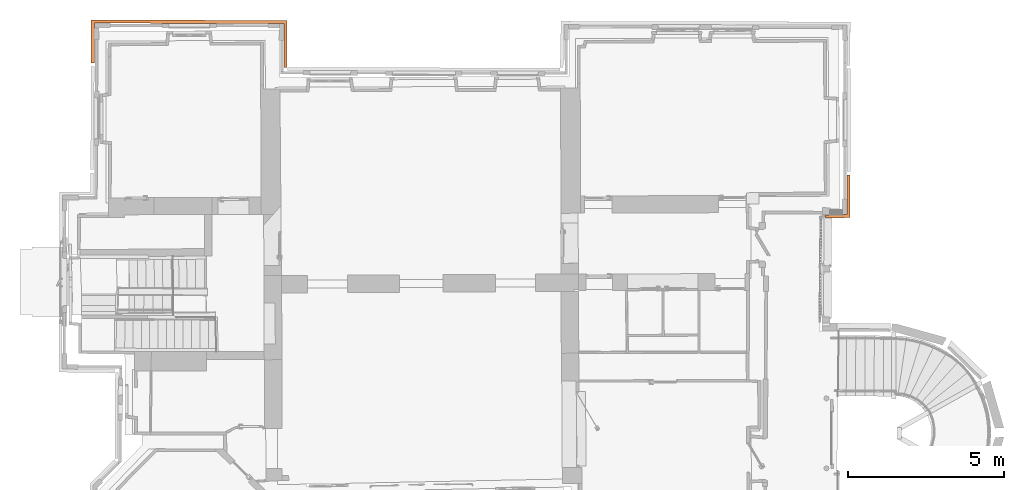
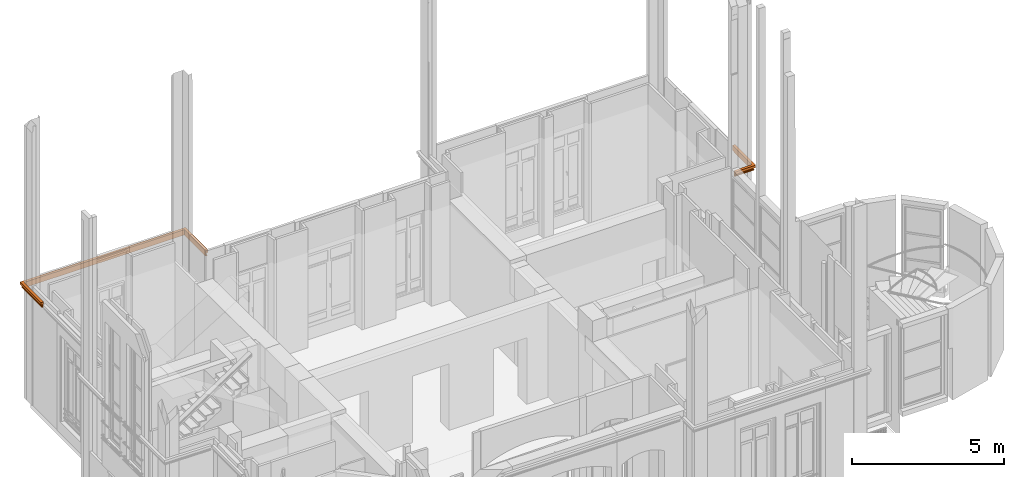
# One storey, part 96 of 97: 2 proxies.
"""IFC2X3 building model written with IfcOpenShell, lengths in centimetres."""

from ifc_helpers import new_model, entity, si_unit, converted_unit, direction, origin, origin_with_axes, place, context, subcontext, project, spatial, faceted_brep, material, type_object, element, save


model = new_model("IFC2X3")

# Units and contexts
model_context = context("Model", 3, precision=0.0001, world=origin(), true_north=direction((0.225632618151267, 0.974212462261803, 0.0)))
body_context = subcontext(model_context, "Body", "Model", "MODEL_VIEW")
ifc_project = project(units=[si_unit("LENGTHUNIT", "METRE", prefix="CENTI"), si_unit("AREAUNIT", "SQUARE_METRE", prefix="CENTI"), si_unit("VOLUMEUNIT", "CUBIC_METRE", prefix="CENTI"), converted_unit("PLANEANGLEUNIT", "DEGREE", entity("IfcRatioMeasure", 0.0174532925), si_unit("PLANEANGLEUNIT", "RADIAN"), dimensions=[0, 0, 0, 0, 0, 0, 0])], contexts=[model_context])

# Site, building, storey
site_placement = place(None, origin_with_axes())
site = spatial("IfcSite", under=ifc_project, at=site_placement, Name="Default Site", CompositionType="ELEMENT")
building_placement = place(site_placement, origin_with_axes())
building = spatial("IfcBuilding", under=site, at=building_placement, Name="Default Building", CompositionType="ELEMENT")
storey_placement = place(building_placement, origin_with_axes())
storey = spatial("IfcBuildingStorey", under=building, at=storey_placement, Name="Rez-de-chaussée", CompositionType="ELEMENT", Elevation=0.0)

# Proxies
ifc_material = material(Name="Aluminium mat")
building_element_proxy_type = type_object("IfcBuildingElementProxyType", Name="Corniche niv1", PredefinedType="NOTDEFINED", material=ifc_material)
proxy_1_placement = place(storey_placement, origin_with_axes())
element("IfcBuildingElementProxy", 1, at=proxy_1_placement, inside=storey, type_object=building_element_proxy_type, material=ifc_material, Name="Extrusion (solide) 956349", context=body_context, shape_type="Brep", body=[
    faceted_brep([(1149.84350204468, 151.600062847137, 464.400005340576), (1159.74788665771, 141.722285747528, 464.400005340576), (1160.88590621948, 278.533816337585, 464.400005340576), (1150.89998245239, 278.616881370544, 464.400005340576), (1159.74788665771, 141.722285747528, 454.400014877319), (1160.88584678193, 278.53381683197, 454.400014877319), (1160.88584678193, 278.53381683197, 464.400005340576), (1152.81896591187, 148.632633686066, 454.400014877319), (1153.89986038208, 278.591918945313, 454.400014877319), (1160.88590621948, 278.533816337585, 454.400014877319), (1152.81896591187, 148.632633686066, 447.100019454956), (1153.89993096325, 278.591918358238, 447.100019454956), (1153.89993096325, 278.591918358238, 454.400014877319), (1155.26714324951, 146.190965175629, 447.100019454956), (1156.36825561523, 278.571391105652, 447.100019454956), (1153.89986038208, 278.591918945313, 447.100019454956), (1155.62075757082, 145.838356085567, 446.875559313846), (1156.72474179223, 278.568410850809, 446.875576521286), (1156.36825308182, 278.571391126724, 447.100015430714), (1155.62076568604, 145.838356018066, 446.87557220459), (1155.92776346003, 145.532166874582, 446.589909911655), (1157.03430654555, 278.565835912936, 446.589904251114), (1156.72475663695, 278.568410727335, 446.875591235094), (1155.92775344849, 145.532166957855, 446.58989906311), (1156.1779269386, 145.282661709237, 446.252555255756), (1157.28654027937, 278.563737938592, 446.252530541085), (1157.03429450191, 278.565836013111, 446.589893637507), (1156.17790222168, 145.282661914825, 446.252536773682), (1156.36286245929, 145.098209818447, 445.874808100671), (1157.47297094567, 278.562188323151, 445.874823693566), (1157.2865071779, 278.563738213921, 446.252516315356), (1156.36291503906, 145.098209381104, 445.874834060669), (1156.47641826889, 144.985008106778, 445.469479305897), (1157.58746667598, 278.561234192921, 445.469484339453), (1157.47302832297, 278.562187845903, 445.874844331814), (1156.47640228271, 144.985008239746, 445.46947479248), (1156.51466847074, 144.946837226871, 445.050003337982), (1157.62603363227, 278.56092472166, 445.049999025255), (1157.58745196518, 278.561234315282, 445.469476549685), (1156.5146446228, 144.946837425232, 445.050001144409), (1156.47637843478, 144.985008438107, 444.630529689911), (1157.58742811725, 278.561234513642, 444.630527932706), (1157.62600978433, 278.560924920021, 445.050005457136), (1156.47640228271, 144.985008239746, 444.630527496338), (1156.36289905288, 145.098209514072, 444.225172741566), (1157.47301233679, 278.562187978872, 444.225162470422), (1157.5874506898, 278.56123432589, 444.630522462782), (1156.36291503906, 145.098209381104, 444.225168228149), (1156.17795480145, 145.282661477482, 443.847439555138), (1157.28655975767, 278.563737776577, 443.847460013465), (1157.47302352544, 278.562187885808, 444.225152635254), (1156.17790222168, 145.282661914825, 443.847465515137), (1155.92772873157, 145.532167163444, 443.510121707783), (1157.03426978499, 278.5658362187, 443.510127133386), (1157.28651556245, 278.56373814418, 443.847490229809), (1155.92775344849, 145.532166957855, 443.510103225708), (1155.62075567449, 145.83835610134, 443.224440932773), (1156.7247466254, 278.568410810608, 443.224421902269), (1157.034296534, 278.565835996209, 443.510108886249), (1155.62076568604, 145.838356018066, 443.224430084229), (1155.26715136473, 146.190965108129, 442.999969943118), (1156.36826119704, 278.571391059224, 442.999973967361), (1156.72474990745, 278.568410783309, 443.224412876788), (1155.26714324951, 146.190965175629, 442.999982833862), (1149.84350204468, 151.600062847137, 442.999982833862), (1150.89998245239, 278.616881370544, 442.999982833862), (1156.36825561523, 278.571391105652, 442.999982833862), (1150.89999248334, 278.61688128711, 464.400005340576), (1150.89999248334, 278.61688128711, 442.999982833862), (1081.91051483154, 150.852155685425, 464.400005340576), (1082.02047348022, 140.866541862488, 464.400005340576), (1082.02047348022, 140.866541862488, 454.400014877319), (1159.74788673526, 141.722278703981, 454.400014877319), (1159.74788673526, 141.722278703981, 464.400005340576), (1081.94351196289, 147.852337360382, 454.400014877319), (1081.94351196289, 147.852337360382, 447.100019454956), (1152.81896586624, 148.632637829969, 447.100019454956), (1152.81896586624, 148.632637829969, 454.400014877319), (1081.97069168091, 145.384001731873, 447.100019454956), (1081.97460188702, 145.027541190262, 446.875592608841), (1155.62076581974, 145.838343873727, 446.875591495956), (1155.26714327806, 146.190962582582, 447.100023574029), (1081.97460174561, 145.027554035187, 446.87557220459), (1081.97803497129, 144.718027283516, 446.589898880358), (1155.92775341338, 145.532170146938, 446.589895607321), (1155.6207656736, 145.838357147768, 446.87557098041), (1081.97803497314, 144.718027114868, 446.58989906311), (1081.98080065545, 144.465789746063, 446.252538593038), (1156.17790224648, 145.28265966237, 446.252538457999), (1155.92775340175, 145.532171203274, 446.589895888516), (1081.98080062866, 144.465792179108, 446.252536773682), (1081.9828986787, 144.279328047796, 445.874832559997), (1156.36291501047, 145.098211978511, 445.874832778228), (1156.17790221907, 145.282662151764, 446.252536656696), (1081.98289871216, 144.279325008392, 445.874834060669), (1081.9841384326, 144.16488919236, 445.469473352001), (1156.47640227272, 144.985009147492, 445.469474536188), (1156.36291504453, 145.098208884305, 445.874834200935), (1081.98413848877, 144.164884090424, 445.46947479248), (1081.9845200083, 144.126303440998, 445.050001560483), (1156.51464459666, 144.946839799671, 445.050000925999), (1156.47640233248, 144.985003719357, 445.469475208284), (1081.9845199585, 144.126307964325, 445.050001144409), (1081.98413843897, 144.164888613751, 444.630527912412), (1156.47640228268, 144.985008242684, 444.630527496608), (1156.51464454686, 144.946844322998, 445.050001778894), (1081.98413848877, 144.164884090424, 444.630527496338), (1081.98289876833, 144.279319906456, 444.22516678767), (1156.3629151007, 145.098203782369, 444.225166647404), (1156.47640232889, 144.985004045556, 444.630526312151), (1081.98289871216, 144.279325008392, 444.225168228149), (1081.98080066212, 144.465789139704, 443.847464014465), (1156.17790225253, 145.28265911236, 443.847464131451), (1156.36291504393, 145.098208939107, 444.225168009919), (1081.98080062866, 144.465792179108, 443.847465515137), (1081.97803494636, 144.718029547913, 443.510105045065), (1155.92775337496, 145.532173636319, 443.510108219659), (1156.17790221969, 145.282662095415, 443.847465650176), (1081.97803497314, 144.718027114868, 443.510103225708), (1081.97460174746, 145.027553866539, 443.224429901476), (1155.62076567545, 145.83835697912, 443.224431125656), (1155.92775341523, 145.53216997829, 443.510106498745), (1081.97460174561, 145.027554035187, 443.224430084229), (1081.97069153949, 145.384014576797, 443.000003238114), (1155.26714313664, 146.190975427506, 442.99999911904), (1155.62076567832, 145.838356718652, 443.224431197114), (1081.97069168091, 145.384001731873, 442.999982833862), (1081.91051483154, 150.852155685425, 442.999982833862), (1149.84350206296, 151.600061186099, 464.400005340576), (1149.84350206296, 151.600061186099, 442.999982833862), (1160.88590626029, 278.533821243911, 464.400005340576), (1160.88590626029, 278.533821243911, 454.400014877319), (1153.89986046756, 278.591929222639, 454.400014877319), (1153.89986046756, 278.591929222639, 447.100019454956), (1156.36825567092, 278.571397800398, 447.100019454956), (1156.724739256, 278.56843266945, 446.87557220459), (1157.03430193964, 278.565857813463, 446.58989906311), (1157.28654879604, 278.563759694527, 446.252536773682), (1157.47299211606, 278.562208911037, 445.874834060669), (1157.58743304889, 278.561257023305, 445.46947479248), (1157.62605676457, 278.560935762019, 445.050001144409), (1157.58743304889, 278.561257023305, 444.630527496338), (1157.47299211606, 278.562208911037, 444.225168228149), (1157.28654879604, 278.563759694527, 443.847465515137), (1157.03430193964, 278.565857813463, 443.510103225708), (1156.724739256, 278.56843266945, 443.224430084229), (1156.36825567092, 278.571397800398, 442.999982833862), (1081.97071625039, 145.384002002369, 442.999982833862), (1081.9746405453, 145.02755446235, 443.224430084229), (1081.97804827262, 144.718027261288, 443.510103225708), (1081.98082524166, 144.465792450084, 443.847465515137), (1081.98287814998, 144.279324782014, 444.225168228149), (1081.98413808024, 144.164884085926, 444.630527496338), (1081.98456277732, 144.126308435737, 445.050001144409), (1081.98413808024, 144.164884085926, 445.46947479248), (1081.98287814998, 144.279324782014, 445.874834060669), (1081.98082524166, 144.465792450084, 446.252536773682), (1081.97804827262, 144.718027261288, 446.58989906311), (1081.9746405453, 145.02755446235, 446.87557220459), (1081.97071625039, 145.384002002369, 447.100019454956), (1081.94354120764, 147.852337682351, 447.100019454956), (1081.94354120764, 147.852337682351, 454.400014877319), (1082.0204510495, 140.866541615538, 454.400014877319), (1082.0204510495, 140.866541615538, 464.400005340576)], [[[0, 1, 2, 3]], [[1, 4, 5, 6]], [[4, 7, 8, 9]], [[7, 10, 11, 12]], [[10, 13, 14, 15]], [[13, 16, 17, 18]], [[19, 20, 21, 22]], [[23, 24, 25, 26]], [[27, 28, 29, 30]], [[31, 32, 33, 34]], [[35, 36, 37, 38]], [[39, 40, 41, 42]], [[43, 44, 45, 46]], [[47, 48, 49, 50]], [[51, 52, 53, 54]], [[55, 56, 57, 58]], [[59, 60, 61, 62]], [[63, 64, 65, 66]], [[64, 0, 67, 68]], [[69, 70, 1, 0]], [[70, 71, 72, 73]], [[71, 74, 7, 4]], [[74, 75, 76, 77]], [[75, 78, 13, 10]], [[78, 79, 80, 81]], [[82, 83, 84, 85]], [[86, 87, 88, 89]], [[90, 91, 92, 93]], [[94, 95, 96, 97]], [[98, 99, 100, 101]], [[102, 103, 104, 105]], [[106, 107, 108, 109]], [[110, 111, 112, 113]], [[114, 115, 116, 117]], [[118, 119, 120, 121]], [[122, 123, 124, 125]], [[126, 127, 64, 63]], [[127, 69, 128, 129]], [[3, 130, 131, 132, 133, 134, 135, 136, 137, 138, 139, 140, 141, 142, 143, 144, 145, 146, 65]], [[127, 147, 148, 149, 150, 151, 152, 153, 154, 155, 156, 157, 158, 159, 160, 161, 162, 163, 69]]]),
])
proxy_2_placement = place(storey_placement, origin_with_axes())
element("IfcBuildingElementProxy", 2, at=proxy_2_placement, inside=storey, type_object=building_element_proxy_type, material=ifc_material, Name="Extrusion (solide) 956345", context=body_context, shape_type="Brep", body=[
    faceted_brep([(-1258.87002944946, 764.54176902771, 462.400007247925), (-1268.86558532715, 774.549961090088, 462.400007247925), (-1268.73617172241, 636.558628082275, 462.400007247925), (-1258.74996185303, 636.567974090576, 462.400007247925), (-1268.86558532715, 774.549961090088, 452.400016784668), (-1268.73620533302, 636.558628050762, 452.400016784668), (-1268.73620533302, 636.558628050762, 462.400007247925), (-1261.8727684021, 767.548370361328, 452.400016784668), (-1261.75003051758, 636.565160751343, 452.400016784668), (-1268.73617172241, 636.558628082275, 452.400016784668), (-1261.8727684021, 767.548370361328, 445.100021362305), (-1261.74995919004, 636.565160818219, 445.100021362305), (-1261.74995919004, 636.565160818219, 452.400016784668), (-1264.34364318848, 770.022296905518, 445.100021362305), (-1264.21852111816, 636.562871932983, 445.100021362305), (-1261.75003051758, 636.565160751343, 445.100021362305), (-1264.70043545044, 770.37954328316, 444.875610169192), (-1264.57494251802, 636.562538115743, 444.875627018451), (-1264.21851861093, 636.562871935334, 445.100017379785), (-1264.70041275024, 770.379543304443, 444.875574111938), (-1265.01025593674, 770.68977356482, 444.589894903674), (-1264.88448114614, 636.562204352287, 444.589910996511), (-1264.574926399, 636.562538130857, 444.87559273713), (-1265.01026153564, 770.68977355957, 444.589900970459), (-1265.26273338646, 770.942544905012, 444.252564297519), (-1265.13674390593, 636.561965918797, 444.252557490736), (-1264.88449260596, 636.562204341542, 444.589916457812), (-1265.2626991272, 770.942544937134, 444.25253868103), (-1265.44936511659, 771.129465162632, 443.874804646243), (-1265.32319493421, 636.561822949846, 443.874805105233), (-1265.13670734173, 636.561965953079, 444.252533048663), (-1265.44942855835, 771.129465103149, 443.874835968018), (-1265.5639772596, 771.244144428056, 443.469480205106), (-1265.43770051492, 636.561727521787, 443.469477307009), (-1265.32325852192, 636.561822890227, 443.874836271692), (-1265.56396484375, 771.244144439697, 443.469476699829), (-1265.6025837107, 771.282815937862, 443.05000259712), (-1265.47626943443, 636.56167980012, 443.050006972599), (-1265.43768736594, 636.561727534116, 443.46947568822), (-1265.60258865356, 771.282815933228, 443.050003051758), (-1265.56396978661, 771.244144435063, 442.630528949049), (-1265.4376923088, 636.561727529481, 442.630529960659), (-1265.47627437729, 636.561679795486, 443.04999867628), (-1265.56396484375, 771.244144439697, 442.630529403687), (-1265.4494161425, 771.12946511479, 442.225173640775), (-1265.32324610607, 636.561822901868, 442.2251733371), (-1265.43768809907, 636.561727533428, 442.630532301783), (-1265.44942855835, 771.129465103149, 442.225170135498), (-1265.26276256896, 770.942544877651, 441.847436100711), (-1265.13677078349, 636.561965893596, 441.847441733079), (-1265.32325837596, 636.561822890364, 442.225169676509), (-1265.2626991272, 770.942544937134, 441.847467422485), (-1265.01022727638, 770.689773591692, 441.510130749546), (-1264.88445834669, 636.562204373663, 441.510115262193), (-1265.13670964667, 636.561965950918, 441.847474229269), (-1265.01026153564, 770.68977355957, 441.510105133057), (-1264.70041834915, 770.379543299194, 441.224425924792), (-1264.5749319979, 636.562538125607, 441.224407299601), (-1264.88448674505, 636.562204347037, 441.51008904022), (-1264.70041275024, 770.379543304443, 441.224431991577), (-1264.34362048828, 770.022296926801, 441.000020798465), (-1264.21849591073, 636.562871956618, 441.000024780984), (-1264.57491981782, 636.562538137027, 441.224415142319), (-1264.34364318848, 770.022296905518, 440.999984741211), (-1258.87002944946, 764.54176902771, 440.999984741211), (-1258.74996185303, 636.567974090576, 440.999984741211), (-1264.21852111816, 636.562871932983, 440.999984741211), (-1258.75004184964, 636.567974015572, 462.400007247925), (-1258.75004184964, 636.567974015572, 440.999984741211), (-651.642179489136, 763.20686340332, 462.400007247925), (-641.634082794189, 773.171091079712, 462.400007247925), (-641.598510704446, 773.171012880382, 452.400016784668), (-1268.8655853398, 774.549955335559, 452.400016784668), (-1268.8655853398, 774.549955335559, 462.400007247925), (-641.598510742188, 773.17099571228, 452.400016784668), (-648.600006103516, 766.200160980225, 452.400016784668), (-648.574018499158, 766.200103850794, 445.100021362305), (-1261.87276847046, 767.548339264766, 445.100021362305), (-1261.87276847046, 767.548339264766, 452.400016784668), (-648.574018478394, 766.200113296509, 445.100021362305), (-646.10013961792, 768.663167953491, 445.100021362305), (-645.742082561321, 769.018856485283, 444.875599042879), (-1264.70041273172, 770.37955173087, 444.875587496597), (-1264.34364320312, 770.022290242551, 445.100010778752), (-645.742082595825, 769.018840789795, 444.875574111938), (-645.430851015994, 769.327720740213, 444.589884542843), (-1265.01026156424, 770.68976054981, 444.589886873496), (-1264.70041277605, 770.379531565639, 444.875561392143), (-645.430850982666, 769.327735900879, 444.589900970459), (-645.176839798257, 769.579424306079, 444.252548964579), (-1265.26269906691, 770.94257236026, 444.25255918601), (-1265.01026152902, 770.689776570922, 444.589903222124), (-645.176839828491, 769.579410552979, 444.25253868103), (-644.988632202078, 769.765472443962, 443.874835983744), (-1265.44942858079, 771.129454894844, 443.874830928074), (-1265.26269908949, 770.942562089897, 444.252547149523), (-644.988632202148, 769.765472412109, 443.874835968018), (-644.872474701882, 769.879660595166, 443.469472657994), (-1265.56396483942, 771.2441464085, 443.469477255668), (-1265.44942858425, 771.129453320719, 443.874832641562), (-644.87247467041, 769.879674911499, 443.469476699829), (-644.832324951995, 769.918169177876, 443.05000429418), (-1265.60258862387, 771.282829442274, 443.050004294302), (-1265.56396480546, 771.244161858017, 443.469478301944), (-644.832324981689, 769.918155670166, 443.050003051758), (-644.869470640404, 769.879654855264, 442.630531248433), (-1265.56396483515, 771.244148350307, 442.630529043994), (-1265.60258865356, 771.282815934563, 443.050003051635), (-644.869470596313, 769.879674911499, 442.630529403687), (-644.982719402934, 769.765480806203, 442.225167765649), (-1265.44942853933, 771.129473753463, 442.225167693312), (-1265.5639647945, 771.244166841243, 442.630523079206), (-644.982719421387, 769.765472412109, 442.225170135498), (-645.16830445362, 769.579405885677, 441.847469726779), (-1265.26269906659, 770.942572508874, 441.847453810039), (-1265.44942855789, 771.129465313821, 442.225170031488), (-645.168304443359, 769.579410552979, 441.847467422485), (-645.419883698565, 769.327701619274, 441.510095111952), (-1265.0102615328, 770.68977485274, 441.51010416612), (-1265.26269907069, 770.942570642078, 441.847448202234), (-645.419883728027, 769.327688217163, 441.510105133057), (-645.72911264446, 769.018831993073, 441.224441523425), (-1264.70041276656, 770.379535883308, 441.224440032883), (-1265.01026155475, 770.689764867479, 441.51011455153), (-645.729112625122, 769.018840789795, 441.224431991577), (-646.085548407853, 768.66311709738, 440.999989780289), (-1264.34364321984, 770.022282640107, 441.000007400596), (-1264.70041274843, 770.379544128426, 441.224430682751), (-646.085548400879, 768.663120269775, 440.999984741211), (-651.565980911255, 763.206672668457, 440.999984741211), (-651.642179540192, 763.206840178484, 462.400007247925), (-1258.87002953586, 764.541729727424, 462.400007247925), (-1258.87002953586, 764.541729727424, 440.999984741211), (-651.950788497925, 622.823047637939, 462.899732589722), (-641.964674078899, 622.801208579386, 462.935280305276), (-641.634082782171, 773.171091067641, 462.400003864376), (-651.642179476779, 763.206863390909, 462.400003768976), (-641.964673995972, 622.801208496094, 462.935256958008), (-641.929155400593, 622.765541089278, 452.935409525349), (-641.598514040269, 773.170995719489, 452.400016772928), (-641.634110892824, 773.171091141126, 462.400007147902), (-641.929149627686, 622.76554107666, 452.935409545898), (-648.915290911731, 622.780799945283, 452.910540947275), (-648.600006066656, 766.200160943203, 452.400006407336), (-641.598510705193, 773.170995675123, 452.400006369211), (-648.91529083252, 622.780799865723, 452.91051864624), (-648.889362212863, 622.75476458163, 445.610618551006), (-648.574021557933, 766.20011330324, 445.100021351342), (-648.600007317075, 766.200160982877, 452.400016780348), (-648.889350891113, 622.754764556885, 445.610618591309), (-646.420908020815, 622.749376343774, 445.619405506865), (-646.100139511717, 768.663167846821, 445.09999146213), (-648.574018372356, 766.200113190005, 445.099991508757), (-646.420907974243, 622.749376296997, 445.61939239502), (-646.06367255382, 622.747802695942, 445.396262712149), (-645.742091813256, 769.018840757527, 444.875559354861), (-646.100159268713, 768.663167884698, 445.099989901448), (-646.063661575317, 622.747802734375, 445.396280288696), (-645.753096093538, 622.746086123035, 445.111705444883), (-645.430848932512, 769.327735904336, 444.589903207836), (-645.742084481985, 769.018840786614, 444.875572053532), (-645.75309753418, 622.746086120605, 445.111703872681), (-645.499653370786, 622.744321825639, 444.775251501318), (-645.17684400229, 769.579410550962, 444.252535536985), (-645.430852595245, 769.3277359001, 444.589899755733), (-645.499658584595, 622.74432182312, 444.775247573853), (-645.311840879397, 622.742557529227, 444.39820822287), (-644.988630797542, 769.765472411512, 443.874836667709), (-645.176854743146, 769.579410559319, 444.252531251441), (-645.311832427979, 622.742557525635, 444.398212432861), (-645.195940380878, 622.74088862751, 443.993226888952), (-644.872486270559, 769.879674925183, 443.469473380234), (-644.988623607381, 769.765472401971, 443.874838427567), (-645.195913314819, 622.740888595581, 443.993234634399), (-645.155841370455, 622.739315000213, 443.573905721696), (-644.832294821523, 769.918155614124, 443.050005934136), (-644.872454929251, 769.879674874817, 443.469478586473), (-645.15585899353, 622.739315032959, 443.573904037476), (-645.192948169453, 622.737884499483, 443.154334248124), (-644.869483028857, 769.879674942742, 442.630530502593), (-644.832309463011, 769.918155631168, 443.050001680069), (-645.192956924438, 622.737884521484, 443.154335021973), (-645.305965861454, 622.736692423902, 442.748546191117), (-644.98274368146, 769.765472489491, 442.225176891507), (-644.869493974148, 769.879674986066, 442.630535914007), (-645.305967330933, 622.736692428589, 442.748546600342), (-645.491098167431, 622.735738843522, 442.370187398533), (-645.16828854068, 769.579410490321, 441.847459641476), (-644.982740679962, 769.76547249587, 442.22518053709), (-645.491075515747, 622.735738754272, 442.370176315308), (-645.742135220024, 622.73511888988, 442.031911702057), (-645.419867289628, 769.327688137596, 441.510092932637), (-645.16827114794, 769.579410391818, 441.847442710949), (-645.742130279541, 622.735118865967, 442.031908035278), (-646.05067561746, 622.734737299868, 441.745120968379), (-645.729082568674, 769.018840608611, 441.224399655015), (-645.419864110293, 769.327688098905, 441.5100840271), (-646.050691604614, 622.73473739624, 441.745138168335), (-646.406364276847, 622.734737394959, 441.519450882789), (-646.085553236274, 768.663120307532, 440.999992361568), (-645.729100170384, 769.018840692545, 441.224412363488), (-646.406364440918, 622.73473739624, 441.519451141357), (-651.87478061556, 622.746705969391, 441.499985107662), (-651.565980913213, 763.206672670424, 440.999985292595), (-646.085548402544, 768.663120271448, 440.999985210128), (-651.874780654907, 622.746706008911, 441.499996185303), (-651.95079064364, 622.823047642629, 462.899732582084), (-651.642180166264, 763.2068634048, 462.400007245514), (-651.566002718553, 763.20667271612, 440.999984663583), (-1268.73617170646, 636.558611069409, 462.400007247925), (-1268.73617170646, 636.558611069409, 452.400016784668), (-1261.75003051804, 636.565161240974, 452.400016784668), (-1261.75003051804, 636.565161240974, 445.100021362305), (-1264.2185210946, 636.562846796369, 445.100021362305), (-1264.5749091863, 636.56251264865, 444.875574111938), (-1264.88447191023, 636.562222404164, 444.589900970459), (-1265.13671876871, 636.561985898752, 444.25253868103), (-1265.32325743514, 636.561811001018, 443.874835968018), (-1265.43769834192, 636.561703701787, 443.469476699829), (-1265.47622679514, 636.561667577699, 443.050003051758), (-1265.43769834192, 636.561703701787, 442.630529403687), (-1265.32325743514, 636.561811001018, 442.225170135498), (-1265.13671876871, 636.561985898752, 441.847467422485), (-1264.88447191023, 636.562222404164, 441.510105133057), (-1264.5749091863, 636.56251264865, 441.224431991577), (-1264.2185210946, 636.562846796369, 440.999984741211), (-646.406364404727, 622.734753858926, 441.519451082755), (-646.050691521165, 622.734775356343, 441.745138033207), (-645.742130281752, 622.735117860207, 442.031908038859), (-645.491075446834, 622.735770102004, 442.370176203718), (-645.305967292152, 622.736710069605, 442.748546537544), (-645.192956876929, 622.737906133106, 443.154334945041), (-645.155858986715, 622.739318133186, 443.57390402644), (-645.195913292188, 622.740898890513, 443.993234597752), (-645.311832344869, 622.742595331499, 444.398212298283), (-645.499658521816, 622.74435038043, 444.775247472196), (-645.753097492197, 622.746105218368, 445.111703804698), (-646.063661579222, 622.747800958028, 445.39628029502), (-646.420907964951, 622.749380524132, 445.619392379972), (-648.8893508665, 622.754775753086, 445.610618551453), (-648.915290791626, 622.780818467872, 452.910518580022), (-641.929149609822, 622.765549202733, 452.935409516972), (-641.964673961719, 622.801224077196, 462.935256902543), (-651.95078849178, 622.823050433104, 462.899732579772)], [[[0, 1, 2, 3]], [[1, 4, 5, 6]], [[4, 7, 8, 9]], [[7, 10, 11, 12]], [[10, 13, 14, 15]], [[13, 16, 17, 18]], [[19, 20, 21, 22]], [[23, 24, 25, 26]], [[27, 28, 29, 30]], [[31, 32, 33, 34]], [[35, 36, 37, 38]], [[39, 40, 41, 42]], [[43, 44, 45, 46]], [[47, 48, 49, 50]], [[51, 52, 53, 54]], [[55, 56, 57, 58]], [[59, 60, 61, 62]], [[63, 64, 65, 66]], [[64, 0, 67, 68]], [[69, 70, 1, 0]], [[70, 71, 72, 73]], [[74, 75, 7, 4]], [[75, 76, 77, 78]], [[79, 80, 13, 10]], [[80, 81, 82, 83]], [[84, 85, 86, 87]], [[88, 89, 90, 91]], [[92, 93, 94, 95]], [[96, 97, 98, 99]], [[100, 101, 102, 103]], [[104, 105, 106, 107]], [[108, 109, 110, 111]], [[112, 113, 114, 115]], [[116, 117, 118, 119]], [[120, 121, 122, 123]], [[124, 125, 126, 127]], [[128, 129, 64, 63]], [[129, 130, 131, 132]], [[133, 134, 135, 136]], [[137, 138, 139, 140]], [[141, 142, 143, 144]], [[145, 146, 147, 148]], [[149, 150, 151, 152]], [[153, 154, 155, 156]], [[157, 158, 159, 160]], [[161, 162, 163, 164]], [[165, 166, 167, 168]], [[169, 170, 171, 172]], [[173, 174, 175, 176]], [[177, 178, 179, 180]], [[181, 182, 183, 184]], [[185, 186, 187, 188]], [[189, 190, 191, 192]], [[193, 194, 195, 196]], [[197, 198, 199, 200]], [[201, 202, 203, 204]], [[205, 206, 207, 208]], [[3, 209, 210, 211, 212, 213, 214, 215, 216, 217, 218, 219, 220, 221, 222, 223, 224, 225, 65]], [[205, 226, 227, 228, 229, 230, 231, 232, 233, 234, 235, 236, 237, 238, 239, 240, 241, 242, 243]]]),
])

save(model, "model.ifc")
